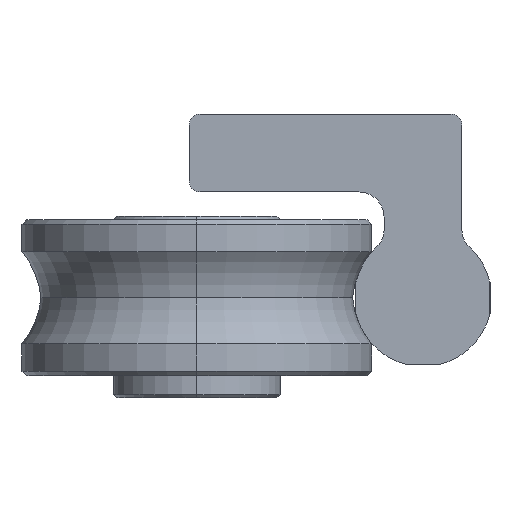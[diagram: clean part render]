
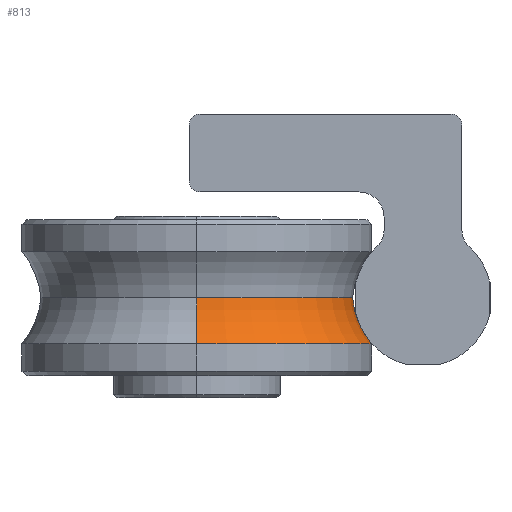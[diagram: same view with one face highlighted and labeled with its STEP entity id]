
A CAD part, left-side view. The second image highlights one B-rep face of the part: STEP entity #813.
In plain terms, the highlighted toroidal (fillet/blend) face has major radius 21.47 mm and minor radius 7.5 mm.
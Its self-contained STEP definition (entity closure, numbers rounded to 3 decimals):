
#19 = DIRECTION ( 'NONE',  ( 1., 0., 0. ) ) ;
#78 = TOROIDAL_SURFACE ( 'NONE', #1934, 21.47, 7.5 ) ;
#81 = CARTESIAN_POINT ( 'NONE',  ( 7., 0., -13.998 ) ) ;
#243 = AXIS2_PLACEMENT_3D ( 'NONE', #2027, #19, #1049 ) ;
#255 = EDGE_CURVE ( 'NONE', #2160, #1036, #1839, .T. ) ;
#275 = DIRECTION ( 'NONE',  ( 0., -1., 0. ) ) ;
#324 = CARTESIAN_POINT ( 'NONE',  ( 6.35, 0., 21.47 ) ) ;
#636 = DIRECTION ( 'NONE',  ( 1., 0., 0. ) ) ;
#742 = CIRCLE ( 'NONE', #1304, 7.5 ) ;
#813 = ADVANCED_FACE ( 'NONE', ( #1411 ), #78, .F. ) ;
#824 = DIRECTION ( 'NONE',  ( 0., 1., 0. ) ) ;
#1036 = VERTEX_POINT ( 'NONE', #2558 ) ;
#1049 = DIRECTION ( 'NONE',  ( 0., 0., -1. ) ) ;
#1073 = CARTESIAN_POINT ( 'NONE',  ( 6.35, 0., 0. ) ) ;
#1237 = CARTESIAN_POINT ( 'NONE',  ( 11.141, 0., -15.7 ) ) ;
#1304 = AXIS2_PLACEMENT_3D ( 'NONE', #2086, #275, #1817 ) ;
#1369 = AXIS2_PLACEMENT_3D ( 'NONE', #324, #824, #1866 ) ;
#1402 = VERTEX_POINT ( 'NONE', #1237 ) ;
#1411 = FACE_OUTER_BOUND ( 'NONE', #2445, .T. ) ;
#1546 = ORIENTED_EDGE ( 'NONE', *, *, #255, .F. ) ;
#1600 = DIRECTION ( 'NONE',  ( 0., 0., -1. ) ) ;
#1683 = CIRCLE ( 'NONE', #243, 15.7 ) ;
#1797 = EDGE_CURVE ( 'NONE', #1402, #2061, #742, .T. ) ;
#1817 = DIRECTION ( 'NONE',  ( 0., 0., -1. ) ) ;
#1827 = EDGE_CURVE ( 'NONE', #1402, #2160, #1683, .T. ) ;
#1839 = CIRCLE ( 'NONE', #1369, 7.5 ) ;
#1866 = DIRECTION ( 'NONE',  ( 0., 0., 1. ) ) ;
#1934 = AXIS2_PLACEMENT_3D ( 'NONE', #1073, #2600, #1600 ) ;
#2027 = CARTESIAN_POINT ( 'NONE',  ( 11.141, 0., 0. ) ) ;
#2061 = VERTEX_POINT ( 'NONE', #81 ) ;
#2086 = CARTESIAN_POINT ( 'NONE',  ( 6.35, 0., -21.47 ) ) ;
#2160 = VERTEX_POINT ( 'NONE', #2701 ) ;
#2170 = DIRECTION ( 'NONE',  ( 0., 0., -1. ) ) ;
#2206 = ORIENTED_EDGE ( 'NONE', *, *, #1797, .T. ) ;
#2226 = ORIENTED_EDGE ( 'NONE', *, *, #3067, .T. ) ;
#2445 = EDGE_LOOP ( 'NONE', ( #1546, #2462, #2206, #2226 ) ) ;
#2462 = ORIENTED_EDGE ( 'NONE', *, *, #1827, .F. ) ;
#2558 = CARTESIAN_POINT ( 'NONE',  ( 7., 0., 13.998 ) ) ;
#2600 = DIRECTION ( 'NONE',  ( 1., 0., 0. ) ) ;
#2663 = CARTESIAN_POINT ( 'NONE',  ( 7., 0., 0. ) ) ;
#2701 = CARTESIAN_POINT ( 'NONE',  ( 11.141, 0., 15.7 ) ) ;
#2738 = AXIS2_PLACEMENT_3D ( 'NONE', #2663, #636, #2170 ) ;
#2781 = CIRCLE ( 'NONE', #2738, 13.998 ) ;
#3067 = EDGE_CURVE ( 'NONE', #2061, #1036, #2781, .T. ) ;
